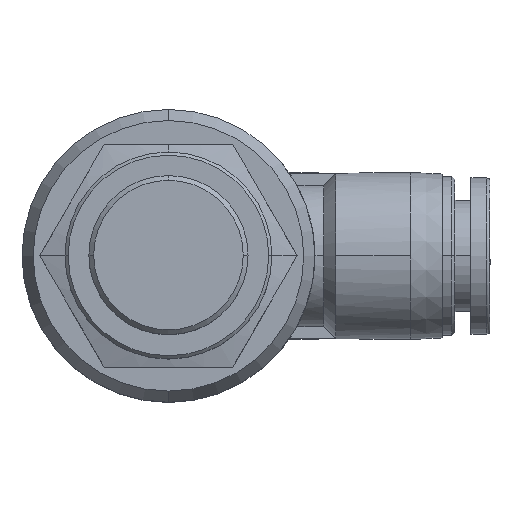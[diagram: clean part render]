
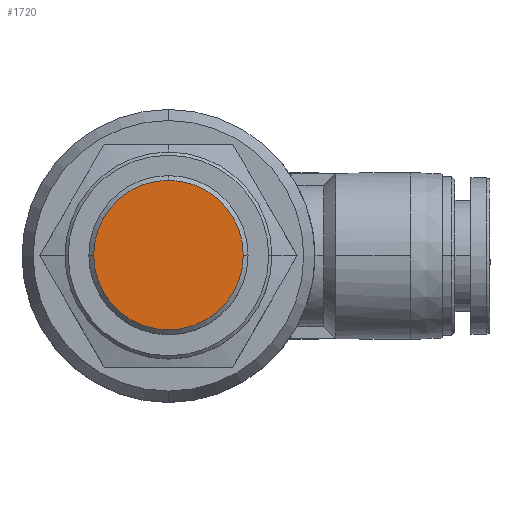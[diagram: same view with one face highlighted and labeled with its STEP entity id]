
A CAD part, top view. The second image highlights one B-rep face of the part: STEP entity #1720.
In plain terms, the highlighted planar face has unit normal (0, 0, 1).
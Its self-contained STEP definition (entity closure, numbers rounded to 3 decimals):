
#94 = ORIENTED_EDGE ( 'NONE', *, *, #109, .F. ) ;
#109 = EDGE_CURVE ( 'NONE', #1314, #964, #3260, .T. ) ;
#460 = CIRCLE ( 'NONE', #2293, 4.7 ) ;
#474 = VERTEX_POINT ( 'NONE', #1451 ) ;
#704 = DIRECTION ( 'NONE',  ( 0., 1., 0. ) ) ;
#823 = CIRCLE ( 'NONE', #891, 4.7 ) ;
#855 = CARTESIAN_POINT ( 'NONE',  ( 0., 0., 49.15 ) ) ;
#888 = ORIENTED_EDGE ( 'NONE', *, *, #1547, .F. ) ;
#890 = DIRECTION ( 'NONE',  ( 0., 0., -1. ) ) ;
#891 = AXIS2_PLACEMENT_3D ( 'NONE', #3007, #2755, #958 ) ;
#909 = PLANE ( 'NONE',  #1682 ) ;
#936 = CARTESIAN_POINT ( 'NONE',  ( 5.2, -5.2, 49.15 ) ) ;
#958 = DIRECTION ( 'NONE',  ( 0., 1., 0. ) ) ;
#964 = VERTEX_POINT ( 'NONE', #1871 ) ;
#1314 = VERTEX_POINT ( 'NONE', #2092 ) ;
#1319 = AXIS2_PLACEMENT_3D ( 'NONE', #855, #890, #704 ) ;
#1451 = CARTESIAN_POINT ( 'NONE',  ( 4.7, 0., 49.15 ) ) ;
#1547 = EDGE_CURVE ( 'NONE', #964, #474, #460, .T. ) ;
#1626 = DIRECTION ( 'NONE',  ( 0., 0., 1. ) ) ;
#1682 = AXIS2_PLACEMENT_3D ( 'NONE', #936, #1626, #2791 ) ;
#1720 = ADVANCED_FACE ( '2', ( #2801 ), #909, .T. ) ;
#1871 = CARTESIAN_POINT ( 'NONE',  ( 0., 4.7, 49.15 ) ) ;
#2088 = EDGE_CURVE ( 'NONE', #474, #1314, #823, .T. ) ;
#2092 = CARTESIAN_POINT ( 'NONE',  ( -4.7, 0., 49.15 ) ) ;
#2293 = AXIS2_PLACEMENT_3D ( 'NONE', #2704, #3018, #2422 ) ;
#2422 = DIRECTION ( 'NONE',  ( 0., 1., 0. ) ) ;
#2683 = ORIENTED_EDGE ( 'NONE', *, *, #2088, .F. ) ;
#2704 = CARTESIAN_POINT ( 'NONE',  ( 0., 0., 49.15 ) ) ;
#2708 = EDGE_LOOP ( 'NONE', ( #94, #2683, #888 ) ) ;
#2755 = DIRECTION ( 'NONE',  ( 0., 0., -1. ) ) ;
#2791 = DIRECTION ( 'NONE',  ( 1., 0., 0. ) ) ;
#2801 = FACE_OUTER_BOUND ( 'NONE', #2708, .T. ) ;
#3007 = CARTESIAN_POINT ( 'NONE',  ( 0., 0., 49.15 ) ) ;
#3018 = DIRECTION ( 'NONE',  ( 0., 0., -1. ) ) ;
#3260 = CIRCLE ( 'NONE', #1319, 4.7 ) ;
